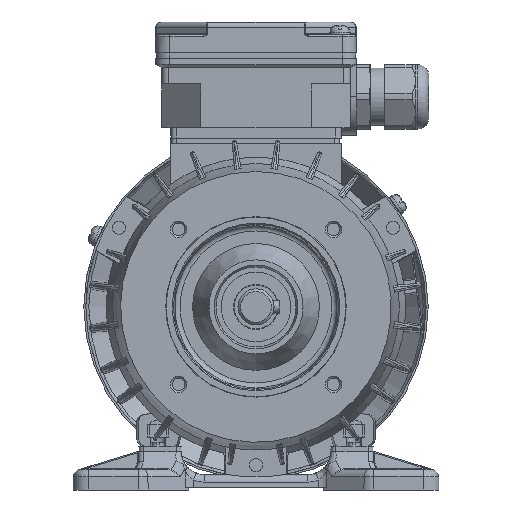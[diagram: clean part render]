
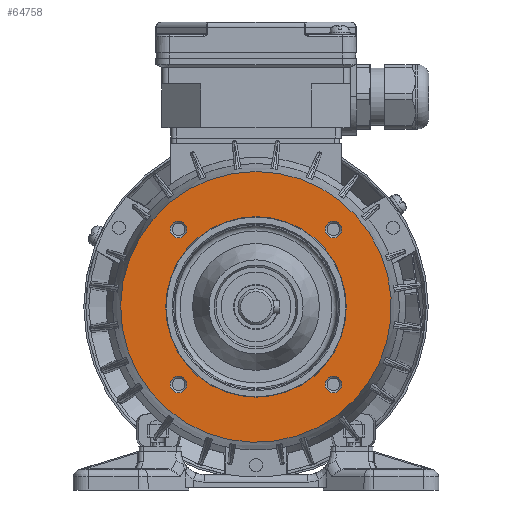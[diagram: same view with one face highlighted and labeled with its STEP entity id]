
A CAD part, front view. The second image highlights one B-rep face of the part: STEP entity #64758.
In plain terms, the highlighted planar face has unit normal (0, -1, 0).
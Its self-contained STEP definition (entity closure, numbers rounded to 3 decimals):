
#4388=CIRCLE('',#67964,35.);
#4389=CIRCLE('',#67966,3.259);
#4390=CIRCLE('',#67968,3.259);
#4391=CIRCLE('',#67970,3.259);
#4392=CIRCLE('',#67972,3.259);
#4509=CIRCLE('',#68166,52.5);
#10291=ORIENTED_EDGE('',*,*,#22108,.T.);
#10292=ORIENTED_EDGE('',*,*,#22107,.T.);
#10293=ORIENTED_EDGE('',*,*,#22106,.T.);
#10294=ORIENTED_EDGE('',*,*,#22105,.T.);
#10295=ORIENTED_EDGE('',*,*,#22104,.F.);
#10296=ORIENTED_EDGE('',*,*,#22427,.T.);
#22104=EDGE_CURVE('',#28582,#28582,#4388,.T.);
#22105=EDGE_CURVE('',#28583,#28583,#4389,.T.);
#22106=EDGE_CURVE('',#28584,#28584,#4390,.T.);
#22107=EDGE_CURVE('',#28585,#28585,#4391,.T.);
#22108=EDGE_CURVE('',#28586,#28586,#4392,.T.);
#22427=EDGE_CURVE('',#28798,#28798,#4509,.T.);
#28582=VERTEX_POINT('',#89726);
#28583=VERTEX_POINT('',#89729);
#28584=VERTEX_POINT('',#89732);
#28585=VERTEX_POINT('',#89735);
#28586=VERTEX_POINT('',#89738);
#28798=VERTEX_POINT('',#92374);
#38934=EDGE_LOOP('',(#10291));
#38935=EDGE_LOOP('',(#10292));
#38936=EDGE_LOOP('',(#10293));
#38937=EDGE_LOOP('',(#10294));
#38938=EDGE_LOOP('',(#10295));
#38939=EDGE_LOOP('',(#10296));
#42011=FACE_BOUND('',#38934,.T.);
#42012=FACE_BOUND('',#38935,.T.);
#42013=FACE_BOUND('',#38936,.T.);
#42014=FACE_BOUND('',#38937,.T.);
#42015=FACE_BOUND('',#38938,.T.);
#42016=FACE_BOUND('',#38939,.T.);
#44418=PLANE('',#68165);
#64758=ADVANCED_FACE('',(#42011,#42012,#42013,#42014,#42015,#42016),#44418,
 .F.);
#67964=AXIS2_PLACEMENT_3D('',#89725,#75034,#75035);
#67966=AXIS2_PLACEMENT_3D('',#89728,#75038,#75039);
#67968=AXIS2_PLACEMENT_3D('',#89731,#75042,#75043);
#67970=AXIS2_PLACEMENT_3D('',#89734,#75046,#75047);
#67972=AXIS2_PLACEMENT_3D('',#89737,#75050,#75051);
#68165=AXIS2_PLACEMENT_3D('',#92372,#75488,#75489);
#68166=AXIS2_PLACEMENT_3D('',#92373,#75490,#75491);
#75034=DIRECTION('',(0.,-1.,0.));
#75035=DIRECTION('',(0.,0.,1.));
#75038=DIRECTION('',(0.,1.,0.));
#75039=DIRECTION('',(1.,0.,0.));
#75042=DIRECTION('',(0.,1.,0.));
#75043=DIRECTION('',(1.,0.,0.));
#75046=DIRECTION('',(0.,1.,0.));
#75047=DIRECTION('',(1.,0.,0.));
#75050=DIRECTION('',(0.,1.,0.));
#75051=DIRECTION('',(1.,0.,0.));
#75488=DIRECTION('',(0.,1.,0.));
#75489=DIRECTION('',(0.,0.,-1.));
#75490=DIRECTION('',(0.,-1.,0.));
#75491=DIRECTION('',(0.,0.,1.));
#89725=CARTESIAN_POINT('',(0.,-41.,0.));
#89726=CARTESIAN_POINT('',(0.,-41.,35.));
#89728=CARTESIAN_POINT('',(30.052,-41.,30.052));
#89729=CARTESIAN_POINT('',(33.311,-41.,30.052));
#89731=CARTESIAN_POINT('',(30.052,-41.,-30.052));
#89732=CARTESIAN_POINT('',(33.311,-41.,-30.052));
#89734=CARTESIAN_POINT('',(-30.052,-41.,-30.052));
#89735=CARTESIAN_POINT('',(-26.794,-41.,-30.052));
#89737=CARTESIAN_POINT('',(-30.052,-41.,30.052));
#89738=CARTESIAN_POINT('',(-26.794,-41.,30.052));
#92372=CARTESIAN_POINT('',(0.,-41.,52.5));
#92373=CARTESIAN_POINT('',(0.,-41.,0.));
#92374=CARTESIAN_POINT('',(0.,-41.,52.5));
